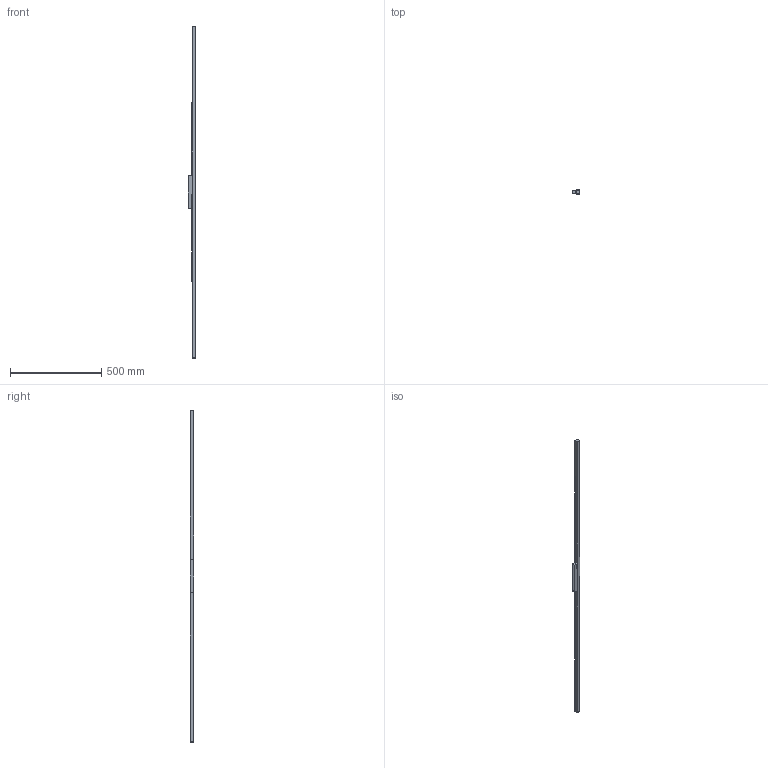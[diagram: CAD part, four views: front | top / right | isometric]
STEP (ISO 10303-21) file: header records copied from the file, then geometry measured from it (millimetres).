
FILE_DESCRIPTION (( 'STEP AP214' ), '1' );
FILE_NAME ('3D_LINESCAPES182_WALL_CEILING.STEP', '2018-03-15T12:57:55', ( 'Utente' ), ( '' ), 'SwSTEP 2.0', 'SolidWorks 2016', '' );
FILE_SCHEMA (( 'AUTOMOTIVE_DESIGN' ));
Length unit declared in the file: millimetre
Products named in the file (3): Parte4-1^3D_LINESCAPES182_WALL_CEILING; Group2^3D_LINESCAPES182_WALL_CEILING; 3D_LINESCAPES182_WALL_CEILING
Assembly tree (2 placements, depth 2):
  3D_LINESCAPES182_WALL_CEILING
    Group2^3D_LINESCAPES182_WALL_CEILING
    Parte4-1^3D_LINESCAPES182_WALL_CEILING
Bounding box: 40 x 20.03 x 1820 mm (x, y, z)
Volume: 668504.4 mm3; surface area: 263143.2 mm2
Topology: 2 solids, 2 shells, 86 faces, 205 edges, 123 vertices
Faces by surface type: plane 68, cylinder 18
Entity records: 2495 total; most frequent: CARTESIAN_POINT 467, ORIENTED_EDGE 410, DIRECTION 375, EDGE_CURVE 205, VECTOR 185, LINE 185, VERTEX_POINT 123, AXIS2_PLACEMENT_3D 95
